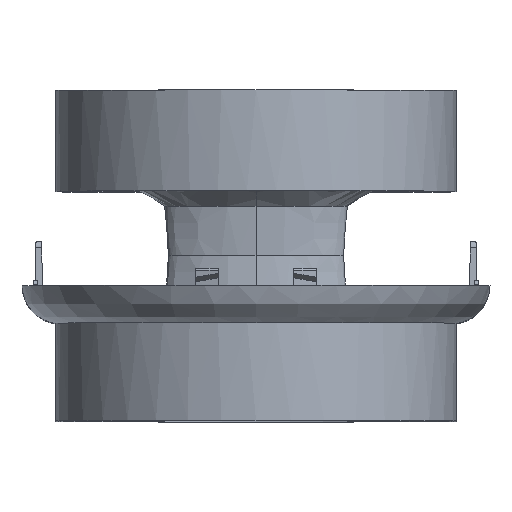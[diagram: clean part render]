
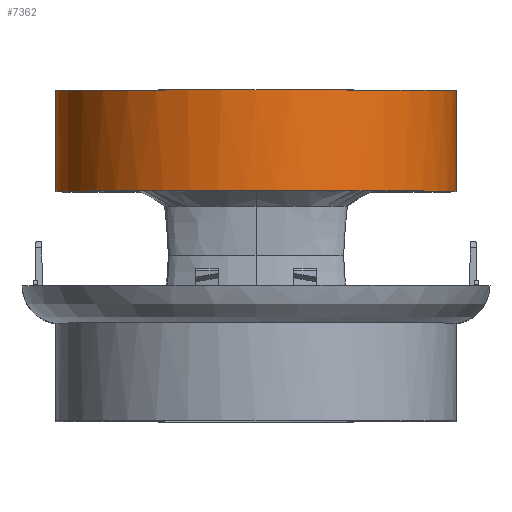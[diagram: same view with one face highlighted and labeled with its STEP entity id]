
A CAD part, top view. The second image highlights one B-rep face of the part: STEP entity #7362.
In plain terms, the highlighted cylindrical face has radius 26.5 mm (diameter 53 mm), a partial arc.
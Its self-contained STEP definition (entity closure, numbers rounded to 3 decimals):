
#7156=DIRECTION('',(0.,-1.,0.));
#7157=VECTOR('',#7156,13.348);
#7158=CARTESIAN_POINT('',(-26.5,19.7,
-14.4));
#7159=LINE('',#7158,#7157);
#7160=CARTESIAN_POINT('',(0.,19.7,
-14.4));
#7161=DIRECTION('',(0.,1.,0.));
#7162=DIRECTION('',(-1.,0.,0.));
#7163=AXIS2_PLACEMENT_3D('',#7160,#7161,#7162);
#7165=CARTESIAN_POINT('',(26.5,6.352,-14.4));
#7166=CARTESIAN_POINT('',(26.5,6.352,-13.015));
#7167=CARTESIAN_POINT('',(26.283,6.341,-10.239));
#7168=CARTESIAN_POINT('',(25.298,6.338,-6.141));
#7169=CARTESIAN_POINT('',(23.675,6.334,-2.255));
#7170=CARTESIAN_POINT('',(21.509,6.335,1.263));
#7171=CARTESIAN_POINT('',(18.792,6.338,4.441));
#7172=CARTESIAN_POINT('',(15.589,6.342,7.165));
#7173=CARTESIAN_POINT('',(12.043,6.346,9.326));
#7174=CARTESIAN_POINT('',(8.205,6.349,10.912));
#7175=CARTESIAN_POINT('',(4.151,6.351,11.883));
#7176=CARTESIAN_POINT('',(0.,6.352,
12.209));
#7177=CARTESIAN_POINT('',(-4.152,6.351,11.883));
#7178=CARTESIAN_POINT('',(-8.205,6.349,10.912));
#7179=CARTESIAN_POINT('',(-12.043,6.346,9.326));
#7180=CARTESIAN_POINT('',(-15.59,6.342,7.164));
#7181=CARTESIAN_POINT('',(-18.793,6.338,4.441));
#7182=CARTESIAN_POINT('',(-21.508,6.335,1.265));
#7183=CARTESIAN_POINT('',(-23.675,6.334,
-2.255));
#7184=CARTESIAN_POINT('',(-25.295,6.338,
-6.133));
#7185=CARTESIAN_POINT('',(-26.282,6.341,
-10.231));
#7186=CARTESIAN_POINT('',(-26.5,6.352,
-13.012));
#7187=CARTESIAN_POINT('',(-26.5,6.352,
-14.4));
#7203=DIRECTION('',(0.,-1.,0.));
#7204=VECTOR('',#7203,13.348);
#7205=CARTESIAN_POINT('',(26.5,19.7,-14.4));
#7206=LINE('',#7205,#7204);
#7318=CARTESIAN_POINT('',(-26.5,19.7,
-14.4));
#7319=CARTESIAN_POINT('',(26.5,19.7,-14.4));
#7320=VERTEX_POINT('',#7318);
#7321=VERTEX_POINT('',#7319);
#7344=CARTESIAN_POINT('',(26.5,6.352,-14.4));
#7345=VERTEX_POINT('',#7344);
#7346=VERTEX_POINT('',#7187);
#7347=CARTESIAN_POINT('',(0.,19.7,
-14.4));
#7348=DIRECTION('',(0.,1.,0.));
#7349=DIRECTION('',(1.,0.,0.));
#7350=AXIS2_PLACEMENT_3D('',#7347,#7348,#7349);
#7351=CYLINDRICAL_SURFACE('',#7350,26.5);
#7353=ORIENTED_EDGE('',*,*,#7352,.T.);
#7355=ORIENTED_EDGE('',*,*,#7354,.F.);
#7357=ORIENTED_EDGE('',*,*,#7356,.T.);
#7359=ORIENTED_EDGE('',*,*,#7358,.T.);
#7360=EDGE_LOOP('',(#7353,#7355,#7357,#7359));
#7361=FACE_OUTER_BOUND('',#7360,.F.);
#7362=ADVANCED_FACE('',(#7361),#7351,.T.);
#7164=CIRCLE('',#7163,26.5);
#7188=B_SPLINE_CURVE_WITH_KNOTS('',3,(#7165,#7166,#7167,#7168,#7169,#7170,#7171,
#7172,#7173,#7174,#7175,#7176,#7177,#7178,#7179,#7180,#7181,#7182,#7183,#7184,
#7185,#7186,#7187),.UNSPECIFIED.,.F.,.F.,(4,1,1,1,1,1,1,1,1,1,1,1,1,1,1,1,1,1,1,
1,4),(0.,0.05,0.1,0.15,0.2,0.25,0.3,0.35,0.4,0.45,0.5,
0.55,0.6,0.65,0.7,0.75,0.8,0.85,0.9,0.95,1.),.UNSPECIFIED.);
#7352=EDGE_CURVE('',#7345,#7346,#7188,.T.);
#7354=EDGE_CURVE('',#7320,#7346,#7159,.T.);
#7356=EDGE_CURVE('',#7320,#7321,#7164,.T.);
#7358=EDGE_CURVE('',#7321,#7345,#7206,.T.);
